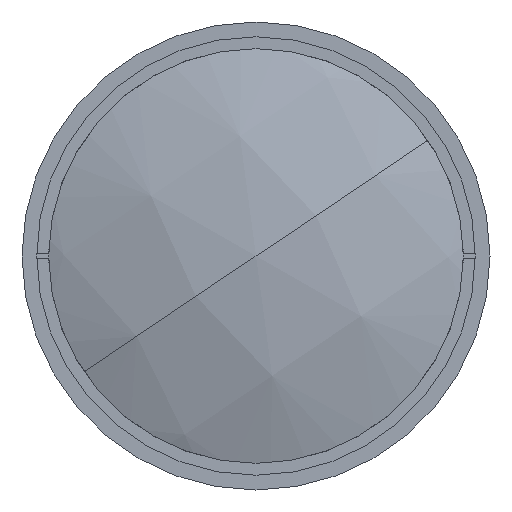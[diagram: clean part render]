
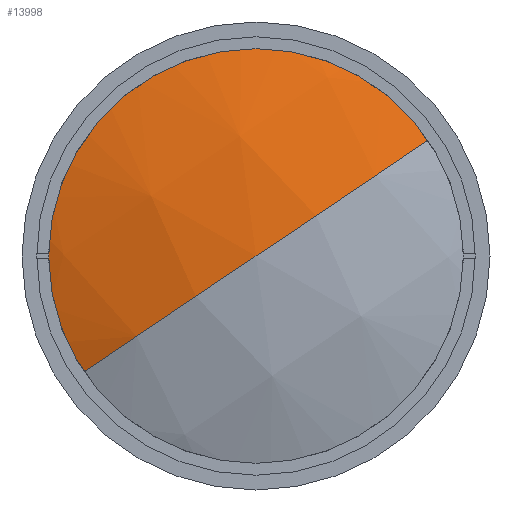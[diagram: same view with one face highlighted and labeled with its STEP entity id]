
A CAD part, left-side view. The second image highlights one B-rep face of the part: STEP entity #13998.
In plain terms, the highlighted spherical face has radius 102.234 mm.
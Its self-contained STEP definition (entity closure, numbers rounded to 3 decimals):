
#554 = EDGE_LOOP ( 'NONE', ( #12257, #9309, #14368 ) ) ;
#819 = VERTEX_POINT ( 'NONE', #1522 ) ;
#1522 = CARTESIAN_POINT ( 'NONE',  ( 1., 0., 0. ) ) ;
#2785 = DIRECTION ( 'NONE',  ( -1., 0., 0. ) ) ;
#3090 = CIRCLE ( 'NONE', #17166, 102.234 ) ;
#3100 = EDGE_CURVE ( 'NONE', #16393, #819, #3090, .T. ) ;
#3450 = CARTESIAN_POINT ( 'NONE',  ( 7.548, 29.871, -20.093 ) ) ;
#4840 = FACE_OUTER_BOUND ( 'NONE', #554, .T. ) ;
#4908 = DIRECTION ( 'NONE',  ( 0., -0.83, 0.558 ) ) ;
#5103 = DIRECTION ( 'NONE',  ( 0., -0.558, -0.83 ) ) ;
#8768 = AXIS2_PLACEMENT_3D ( 'NONE', #9514, #14503, #4908 ) ;
#9309 = ORIENTED_EDGE ( 'NONE', *, *, #10577, .T. ) ;
#9514 = CARTESIAN_POINT ( 'NONE',  ( 103.234, 0., 0. ) ) ;
#9607 = CARTESIAN_POINT ( 'NONE',  ( 103.234, 0., 0. ) ) ;
#10130 = CARTESIAN_POINT ( 'NONE',  ( 7.548, -29.871, 20.093 ) ) ;
#10577 = EDGE_CURVE ( 'NONE', #18859, #819, #14622, .T. ) ;
#10812 = CIRCLE ( 'NONE', #14552, 36. ) ;
#11270 = DIRECTION ( 'NONE',  ( 0., -0.83, 0.558 ) ) ;
#12257 = ORIENTED_EDGE ( 'NONE', *, *, #17509, .T. ) ;
#12452 = CARTESIAN_POINT ( 'NONE',  ( 7.548, 0., 0. ) ) ;
#13414 = SPHERICAL_SURFACE ( 'NONE', #8768, 102.234 ) ;
#13998 = ADVANCED_FACE ( 'NONE', ( #4840 ), #13414, .T. ) ;
#14032 = DIRECTION ( 'NONE',  ( 0., 0.558, 0.83 ) ) ;
#14368 = ORIENTED_EDGE ( 'NONE', *, *, #3100, .F. ) ;
#14503 = DIRECTION ( 'NONE',  ( 0., 0.558, 0.83 ) ) ;
#14552 = AXIS2_PLACEMENT_3D ( 'NONE', #12452, #2785, #14032 ) ;
#14622 = CIRCLE ( 'NONE', #17225, 102.234 ) ;
#14703 = CARTESIAN_POINT ( 'NONE',  ( 103.234, 0., 0. ) ) ;
#16265 = DIRECTION ( 'NONE',  ( 0., 0.83, -0.558 ) ) ;
#16393 = VERTEX_POINT ( 'NONE', #10130 ) ;
#17166 = AXIS2_PLACEMENT_3D ( 'NONE', #14703, #5103, #16265 ) ;
#17225 = AXIS2_PLACEMENT_3D ( 'NONE', #9607, #20679, #11270 ) ;
#17509 = EDGE_CURVE ( 'NONE', #16393, #18859, #10812, .T. ) ;
#18859 = VERTEX_POINT ( 'NONE', #3450 ) ;
#20679 = DIRECTION ( 'NONE',  ( 0., 0.558, 0.83 ) ) ;
